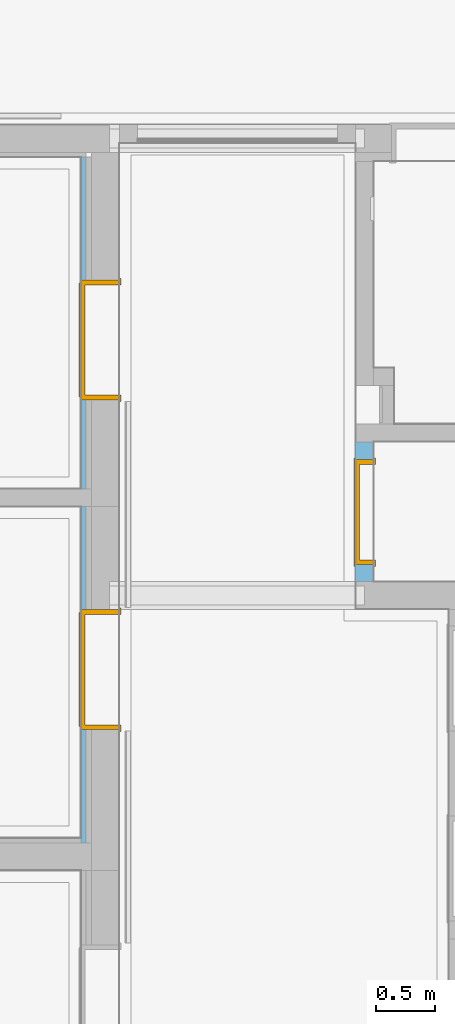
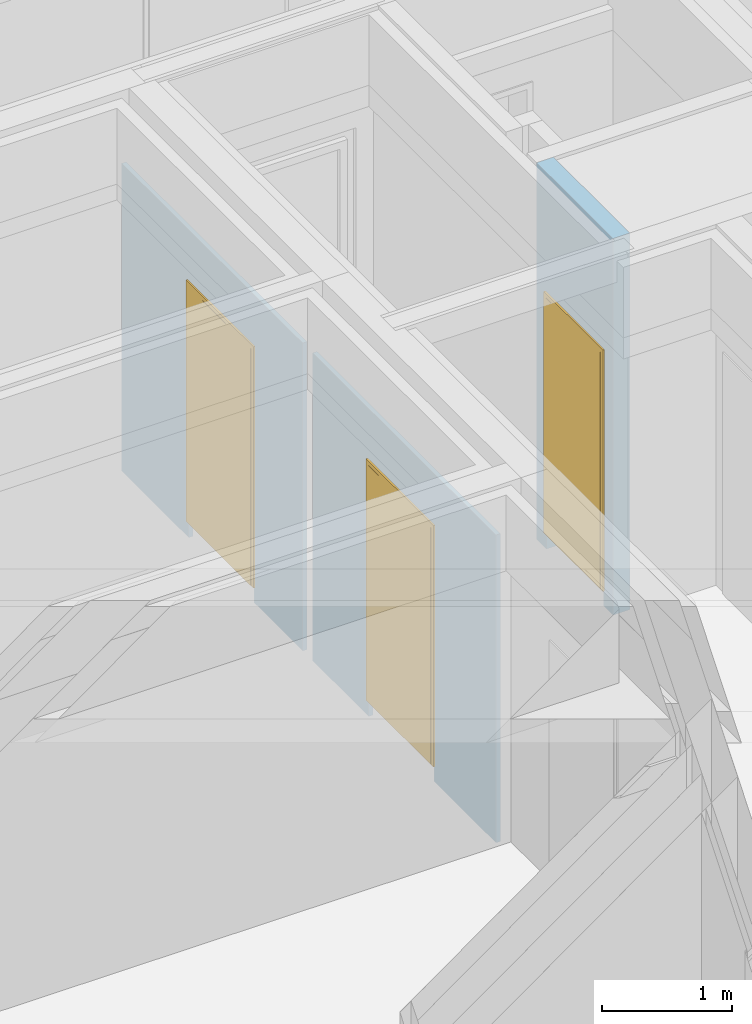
# One storey, part 137 of 222: 3 doors, 3 openings, plus 3 elements that do not belong to this part.
"""IFC4 building model written with IfcOpenShell, lengths in metres."""

from ifc_helpers import new_model, entity, si_unit, converted_unit, derived_unit, frame, frame_2d, origin, origin_with_axes, place, context, subcontext, project, spatial, polyline, rectangle, outline, extrude, faceted_brep, source, transform, mapped, material, type_object, element, fill, save


model = new_model("IFC4")

# Units and contexts
model_context = context("Model", 3, precision=1e-05, world=origin())
body_context = subcontext(model_context, "Body", "Model", "MODEL_VIEW")
ifc_project = project(units=[si_unit("LENGTHUNIT", "METRE"), si_unit("AREAUNIT", "SQUARE_METRE"), si_unit("VOLUMEUNIT", "CUBIC_METRE"), si_unit("MASSUNIT", "GRAM", prefix="KILO"), converted_unit("PLANEANGLEUNIT", "DEGREE", entity("IfcPlaneAngleMeasure", 0.0174532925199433), si_unit("PLANEANGLEUNIT", "RADIAN"), dimensions=[0, 0, 0, 0, 0, 0, 0]), derived_unit("THERMALTRANSMITTANCEUNIT", [(si_unit("POWERUNIT", "WATT"), 1), (si_unit("THERMODYNAMICTEMPERATUREUNIT", "KELVIN"), -1), (si_unit("LENGTHUNIT", "METRE"), -2)]), derived_unit("VOLUMETRICFLOWRATEUNIT", [(si_unit("LENGTHUNIT", "METRE"), 3), (converted_unit("TIMEUNIT", "hour", entity("IfcTimeMeasure", 3600.0), si_unit("TIMEUNIT", "SECOND"), dimensions=[0, 0, 1, 0, 0, 0, 0]), -1), (si_unit("LENGTHUNIT", "METRE"), -1)])], contexts=[model_context])

# Site, building, storey
site_placement = place(None, origin())
site = spatial("IfcSite", under=ifc_project, at=site_placement, Name="Psychiatrie Neubau Wunstorf", CompositionType="ELEMENT")
building_placement = place(site_placement, origin())
building = spatial("IfcBuilding", under=site, at=building_placement, Name="Neubau H2 Stationsgebäude", CompositionType="ELEMENT")
storey_placement = place(building_placement, frame((0.0, 0.0, 3.6)))
storey = spatial("IfcBuildingStorey", under=building, at=storey_placement, Name="H2 Ebene +1", CompositionType="ELEMENT", Elevation=3.6)

# Wall, opening, door
ifc_material_1 = material(Name="WI-LB")
wall_1_placement = place(storey_placement, frame((98.225, 18.9860040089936, 0.0), z_axis=(0.0, 0.0, 1.0), x_axis=(0.0, 1.0, 0.0)))
wall_1 = element("IfcWall", 1, at=wall_1_placement, inside=storey, material=ifc_material_1, context=body_context, shape_type="SweptSolid", body=[
    extrude(rectangle(XDim=1.17898976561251, YDim=0.15, at=frame_2d((0.589494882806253, 0.075), x_axis=(1.0, 0.0))), origin_with_axes(), (0.0, 0.0, 1.0), 3.55),
])
opening_1_placement = place(wall_1_placement, frame((1.02898976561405, 0.15, 0.0), z_axis=(0.0, -1.0, 0.0), x_axis=(0.0, 0.0, 1.0)))
opening_1 = element("IfcOpeningElement", 2, at=opening_1_placement, cuts=wall_1, Name="Türöffnung", ObjectType="Opening", context=body_context, shape_type="SweptSolid", body=[
    extrude(outline(polyline([(2.41, 0.885000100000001), (2.41, 0.0), (0.0, 0.0), (0.0, 0.885000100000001), (2.41, 0.885000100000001)])), origin_with_axes(), (0.0, 0.0, 1.0), 0.15),
])
ifc_material_2 = material(Name="TI-1F-UZ-ZK")
door_type_1 = type_object("IfcDoorType", Name="SMT", OperationType="SINGLE_SWING_RIGHT", ParameterTakesPrecedence=False, PredefinedType="DOOR")
shared_shape_1 = source(origin_with_axes(), body_context, "Body", "Brep", [
    faceted_brep([(0.95000009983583, 0.0250000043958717, 0.0), (0.95000009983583, 0.124999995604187, 0.0), (0.910000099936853, 0.124999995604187, 0.0), (0.910000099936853, 0.0250000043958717, 0.0), (0.95000009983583, 0.124999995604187, 3.55), (0.95000009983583, 0.0250000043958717, 3.55), (0.910000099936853, 0.0250000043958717, 3.55), (0.910000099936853, 0.124999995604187, 3.55)], [[[0, 1, 2, 3]], [[4, 5, 6, 7]], [[1, 0, 5, 4]], [[2, 1, 4, 7]], [[3, 2, 7, 6]], [[0, 3, 6, 5]]], orient=[[False], [False], [False], [False], [False], [False]]),
    faceted_brep([(-0.0249999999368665, 0.0250000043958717, 0.0), (-0.0249999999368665, 0.124999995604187, 0.0), (-0.0649999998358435, 0.124999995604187, 0.0), (-0.0649999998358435, 0.0250000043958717, 0.0), (-0.0249999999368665, 0.124999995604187, 3.55), (-0.0249999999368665, 0.0250000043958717, 3.55), (-0.0649999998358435, 0.0250000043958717, 3.55), (-0.0649999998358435, 0.124999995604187, 3.55)], [[[0, 1, 2, 3]], [[4, 5, 6, 7]], [[1, 0, 5, 4]], [[2, 1, 4, 7]], [[3, 2, 7, 6]], [[0, 3, 6, 5]]], orient=[[False], [False], [False], [False], [False], [False]]),
    faceted_brep([(0.910000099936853, 0.0250000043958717, 2.435), (0.910000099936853, 0.124999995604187, 2.435), (-0.0249999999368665, 0.124999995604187, 2.435), (-0.0249999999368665, 0.0250000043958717, 2.435), (0.910000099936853, 0.124999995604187, 2.475), (0.910000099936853, 0.0250000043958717, 2.475), (-0.0249999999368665, 0.0250000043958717, 2.475), (-0.0249999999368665, 0.124999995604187, 2.475)], [[[0, 1, 2, 3]], [[4, 5, 6, 7]], [[1, 0, 5, 4]], [[2, 1, 4, 7]], [[3, 2, 7, 6]], [[0, 3, 6, 5]]], orient=[[False], [False], [False], [False], [False], [False]]),
])
shared_shape_2 = source(origin_with_axes(), body_context, "Body", "Brep", [
    faceted_brep([(0.0, -0.0149999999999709, 2.41), (0.0399999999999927, -0.0149999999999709, 2.41), (0.0399999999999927, -0.0149999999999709, 0.15), (0.0, -0.0149999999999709, 0.15), (0.0, 0.165000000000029, 0.15), (0.0399999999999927, 0.165000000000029, 0.15), (0.0399999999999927, 0.165000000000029, 2.41), (0.0, 0.165000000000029, 2.41)], [[[0, 1, 2, 3]], [[4, 5, 6, 7]], [[3, 4, 7, 0]], [[2, 5, 4, 3]], [[1, 6, 5, 2]], [[0, 7, 6, 1]]], orient=[[False], [False], [False], [False], [False], [False]]),
    faceted_brep([(0.0, -0.0149999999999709, 2.425), (0.0, -0.0149999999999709, 0.15), (-0.0150000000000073, -0.0149999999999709, 0.15), (-0.0150000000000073, -0.0149999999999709, 2.425), (0.0, 0.0, 0.15), (0.0, 0.0, 2.425), (-0.0150000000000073, 0.0, 2.425), (-0.0150000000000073, 0.0, 0.15)], [[[0, 1, 2, 3]], [[4, 5, 6, 7]], [[1, 0, 5, 4]], [[2, 1, 4, 7]], [[3, 2, 7, 6]], [[0, 3, 6, 5]]], orient=[[False], [False], [False], [False], [False], [False]]),
    faceted_brep([(0.0, 0.150000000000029, 2.425), (0.0, 0.150000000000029, 0.15), (-0.0150000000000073, 0.150000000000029, 0.15), (-0.0150000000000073, 0.150000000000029, 2.425), (0.0, 0.165000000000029, 0.15), (0.0, 0.165000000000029, 2.425), (-0.0150000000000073, 0.165000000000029, 2.425), (-0.0150000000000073, 0.165000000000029, 0.15)], [[[0, 1, 2, 3]], [[4, 5, 6, 7]], [[1, 0, 5, 4]], [[2, 1, 4, 7]], [[3, 2, 7, 6]], [[0, 3, 6, 5]]], orient=[[False], [False], [False], [False], [False], [False]]),
    faceted_brep([(0.845000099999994, -0.0149999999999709, 2.41), (0.885000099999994, -0.0149999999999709, 2.41), (0.885000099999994, -0.0149999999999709, 0.15), (0.845000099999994, -0.0149999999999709, 0.15), (0.845000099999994, 0.165000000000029, 0.15), (0.885000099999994, 0.165000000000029, 0.15), (0.885000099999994, 0.165000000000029, 2.41), (0.845000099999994, 0.165000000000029, 2.41)], [[[0, 1, 2, 3]], [[4, 5, 6, 7]], [[3, 4, 7, 0]], [[2, 5, 4, 3]], [[1, 6, 5, 2]], [[0, 7, 6, 1]]], orient=[[False], [False], [False], [False], [False], [False]]),
    faceted_brep([(0.885000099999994, -0.0149999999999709, 2.425), (0.900000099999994, -0.0149999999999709, 2.425), (0.900000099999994, -0.0149999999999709, 0.15), (0.885000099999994, -0.0149999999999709, 0.15), (0.885000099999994, 0.0, 0.15), (0.900000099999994, 0.0, 0.15), (0.900000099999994, 0.0, 2.425), (0.885000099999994, 0.0, 2.425)], [[[0, 1, 2, 3]], [[4, 5, 6, 7]], [[3, 4, 7, 0]], [[2, 5, 4, 3]], [[1, 6, 5, 2]], [[0, 7, 6, 1]]], orient=[[False], [False], [False], [False], [False], [False]]),
    faceted_brep([(0.885000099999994, 0.150000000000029, 2.425), (0.900000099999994, 0.150000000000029, 2.425), (0.900000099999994, 0.150000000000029, 0.15), (0.885000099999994, 0.150000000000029, 0.15), (0.885000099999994, 0.165000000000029, 0.15), (0.900000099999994, 0.165000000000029, 0.15), (0.900000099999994, 0.165000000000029, 2.425), (0.885000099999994, 0.165000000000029, 2.425)], [[[0, 1, 2, 3]], [[4, 5, 6, 7]], [[3, 4, 7, 0]], [[2, 5, 4, 3]], [[1, 6, 5, 2]], [[0, 7, 6, 1]]], orient=[[False], [False], [False], [False], [False], [False]]),
    faceted_brep([(0.0399999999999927, -0.0149999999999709, 2.41), (0.845000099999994, -0.0149999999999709, 2.41), (0.845000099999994, -0.0149999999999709, 2.37), (0.0399999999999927, -0.0149999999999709, 2.37), (0.0399999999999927, 0.165000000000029, 2.37), (0.845000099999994, 0.165000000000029, 2.37), (0.845000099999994, 0.165000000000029, 2.41), (0.0399999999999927, 0.165000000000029, 2.41)], [[[0, 1, 2, 3]], [[4, 5, 6, 7]], [[3, 4, 7, 0]], [[2, 5, 4, 3]], [[1, 6, 5, 2]], [[0, 7, 6, 1]]], orient=[[False], [False], [False], [False], [False], [False]]),
    faceted_brep([(0.0, -0.0149999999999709, 2.425), (0.885000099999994, -0.0149999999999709, 2.425), (0.885000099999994, -0.0149999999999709, 2.41), (0.0, -0.0149999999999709, 2.41), (0.0, 0.0, 2.41), (0.885000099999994, 0.0, 2.41), (0.885000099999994, 0.0, 2.425), (0.0, 0.0, 2.425)], [[[0, 1, 2, 3]], [[4, 5, 6, 7]], [[3, 4, 7, 0]], [[2, 5, 4, 3]], [[1, 6, 5, 2]], [[0, 7, 6, 1]]], orient=[[False], [False], [False], [False], [False], [False]]),
    faceted_brep([(0.0, 0.150000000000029, 2.425), (0.885000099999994, 0.150000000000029, 2.425), (0.885000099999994, 0.150000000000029, 2.41), (0.0, 0.150000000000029, 2.41), (0.0, 0.165000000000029, 2.41), (0.885000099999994, 0.165000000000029, 2.41), (0.885000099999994, 0.165000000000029, 2.425), (0.0, 0.165000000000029, 2.425)], [[[0, 1, 2, 3]], [[4, 5, 6, 7]], [[3, 4, 7, 0]], [[2, 5, 4, 3]], [[1, 6, 5, 2]], [[0, 7, 6, 1]]], orient=[[False], [False], [False], [False], [False], [False]]),
    faceted_brep([(0.0249999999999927, 0.116000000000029, 2.385), (0.860000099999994, 0.116000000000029, 2.385), (0.860000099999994, 0.116000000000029, 0.15), (0.0249999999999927, 0.116000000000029, 0.15), (0.0249999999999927, 0.166000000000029, 0.15), (0.860000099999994, 0.166000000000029, 0.15), (0.860000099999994, 0.166000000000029, 2.385), (0.0249999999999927, 0.166000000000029, 2.385)], [[[0, 1, 2, 3]], [[4, 5, 6, 7]], [[3, 4, 7, 0]], [[2, 5, 4, 3]], [[1, 6, 5, 2]], [[0, 7, 6, 1]]], orient=[[False], [False], [False], [False], [False], [False]]),
])
door_1_placement = place(opening_1_placement, frame((0.0, 0.885000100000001, 0.15), z_axis=(1.0, 0.0, 0.0), x_axis=(0.0, -1.0, 0.0)))
door_1 = element("IfcDoor", 3, at=door_1_placement, inside=storey, type_object=door_type_1, material=ifc_material_2, Name="SMT", OverallHeight=2.41, OverallWidth=0.885, context=body_context, shape_type="MappedRepresentation", body=[
    mapped(shared_shape_1, transform((0.0, 0.0, 0.0), x_axis=(1.0, 0.0, 0.0), y_axis=(0.0, 1.0, 0.0), z_axis=(0.0, 0.0, 1.0), scale=1.0)),
    mapped(shared_shape_2, transform((0.0, 0.0, 0.0), x_axis=(1.0, 0.0, 0.0), y_axis=(0.0, 1.0, 0.0), z_axis=(0.0, 0.0, 1.0), scale=1.0)),
])
fill(opening_1, door_1)

ifc_material_3 = material(Name="WI-LB")
wall_2_placement = place(storey_placement, frame((95.7609999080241, 19.618, 0.0), z_axis=(0.0, 0.0, 1.0), x_axis=(0.0, -1.0, 0.0)))
wall_2 = element("IfcWall", 4, at=wall_2_placement, inside=storey, material=ifc_material_3, context=body_context, shape_type="SweptSolid", body=[
    extrude(rectangle(XDim=2.8325, YDim=0.0395, at=frame_2d((1.41625, 0.01975), x_axis=(1.0, 0.0))), origin_with_axes(), (0.0, 0.0, 1.0), 2.9),
])
opening_2_placement = place(wall_2_placement, frame((1.87810239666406, 0.0395, 0.0), z_axis=(0.0, -1.0, 0.0), x_axis=(0.0, 0.0, 1.0)))
opening_2 = element("IfcOpeningElement", 5, at=opening_2_placement, cuts=wall_2, Name="Türöffnung", ObjectType="Opening", context=body_context, shape_type="SweptSolid", body=[
    extrude(outline(polyline([(2.41, 1.01), (2.41, 0.0), (0.0, 0.0), (0.0, 1.01), (2.41, 1.01)])), origin_with_axes(), (0.0, 0.0, 1.0), 0.0395),
])
ifc_material_4 = material(Name="TI-1F-UZ-ZK")
door_type_2 = type_object("IfcDoorType", Name="SMT", OperationType="SINGLE_SWING_RIGHT", ParameterTakesPrecedence=False, PredefinedType="DOOR")
shared_shape_3 = source(origin_with_axes(), body_context, "Body", "Brep", [
    faceted_brep([(1.00999999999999, -0.0149999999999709, 2.41), (1.00999999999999, -0.0149999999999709, 0.15), (0.969999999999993, -0.0149999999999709, 0.15), (0.969999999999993, -0.0149999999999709, 2.41), (1.00999999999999, 0.336500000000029, 0.15), (1.00999999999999, 0.336500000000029, 2.41), (0.969999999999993, 0.336500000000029, 2.41), (0.969999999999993, 0.336500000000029, 0.15)], [[[0, 1, 2, 3]], [[4, 5, 6, 7]], [[1, 0, 5, 4]], [[2, 1, 4, 7]], [[3, 2, 7, 6]], [[0, 3, 6, 5]]], orient=[[False], [False], [False], [False], [False], [False]]),
    faceted_brep([(1.00999999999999, -0.0149999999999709, 2.425), (1.02499999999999, -0.0149999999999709, 2.425), (1.02499999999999, -0.0149999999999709, 0.15), (1.00999999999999, -0.0149999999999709, 0.15), (1.00999999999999, 0.0, 0.15), (1.02499999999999, 0.0, 0.15), (1.02499999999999, 0.0, 2.425), (1.00999999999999, 0.0, 2.425)], [[[0, 1, 2, 3]], [[4, 5, 6, 7]], [[3, 4, 7, 0]], [[2, 5, 4, 3]], [[1, 6, 5, 2]], [[0, 7, 6, 1]]], orient=[[False], [False], [False], [False], [False], [False]]),
    faceted_brep([(1.00999999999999, 0.321500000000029, 2.425), (1.02499999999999, 0.321500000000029, 2.425), (1.02499999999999, 0.321500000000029, 0.15), (1.00999999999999, 0.321500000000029, 0.15), (1.00999999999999, 0.336500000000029, 0.15), (1.02499999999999, 0.336500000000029, 0.15), (1.02499999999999, 0.336500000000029, 2.425), (1.00999999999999, 0.336500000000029, 2.425)], [[[0, 1, 2, 3]], [[4, 5, 6, 7]], [[3, 4, 7, 0]], [[2, 5, 4, 3]], [[1, 6, 5, 2]], [[0, 7, 6, 1]]], orient=[[False], [False], [False], [False], [False], [False]]),
    faceted_brep([(0.0399999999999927, -0.0149999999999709, 2.41), (0.0399999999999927, -0.0149999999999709, 0.15), (0.0, -0.0149999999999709, 0.15), (0.0, -0.0149999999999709, 2.41), (0.0399999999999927, 0.336500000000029, 0.15), (0.0399999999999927, 0.336500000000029, 2.41), (0.0, 0.336500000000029, 2.41), (0.0, 0.336500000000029, 0.15)], [[[0, 1, 2, 3]], [[4, 5, 6, 7]], [[1, 0, 5, 4]], [[2, 1, 4, 7]], [[3, 2, 7, 6]], [[0, 3, 6, 5]]], orient=[[False], [False], [False], [False], [False], [False]]),
    faceted_brep([(0.0, -0.0149999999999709, 2.425), (0.0, -0.0149999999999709, 0.15), (-0.0150000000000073, -0.0149999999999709, 0.15), (-0.0150000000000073, -0.0149999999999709, 2.425), (0.0, 0.0, 0.15), (0.0, 0.0, 2.425), (-0.0150000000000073, 0.0, 2.425), (-0.0150000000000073, 0.0, 0.15)], [[[0, 1, 2, 3]], [[4, 5, 6, 7]], [[1, 0, 5, 4]], [[2, 1, 4, 7]], [[3, 2, 7, 6]], [[0, 3, 6, 5]]], orient=[[False], [False], [False], [False], [False], [False]]),
    faceted_brep([(0.0, 0.321500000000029, 2.425), (0.0, 0.321500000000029, 0.15), (-0.0150000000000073, 0.321500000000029, 0.15), (-0.0150000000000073, 0.321500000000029, 2.425), (0.0, 0.336500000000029, 0.15), (0.0, 0.336500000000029, 2.425), (-0.0150000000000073, 0.336500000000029, 2.425), (-0.0150000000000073, 0.336500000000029, 0.15)], [[[0, 1, 2, 3]], [[4, 5, 6, 7]], [[1, 0, 5, 4]], [[2, 1, 4, 7]], [[3, 2, 7, 6]], [[0, 3, 6, 5]]], orient=[[False], [False], [False], [False], [False], [False]]),
    faceted_brep([(0.969999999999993, -0.0149999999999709, 2.41), (0.969999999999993, -0.0149999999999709, 2.37), (0.0399999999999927, -0.0149999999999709, 2.37), (0.0399999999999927, -0.0149999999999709, 2.41), (0.969999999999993, 0.336500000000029, 2.37), (0.969999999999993, 0.336500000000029, 2.41), (0.0399999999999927, 0.336500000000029, 2.41), (0.0399999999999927, 0.336500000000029, 2.37)], [[[0, 1, 2, 3]], [[4, 5, 6, 7]], [[1, 0, 5, 4]], [[2, 1, 4, 7]], [[3, 2, 7, 6]], [[0, 3, 6, 5]]], orient=[[False], [False], [False], [False], [False], [False]]),
    faceted_brep([(1.00999999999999, -0.0149999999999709, 2.425), (1.00999999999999, -0.0149999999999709, 2.41), (0.0, -0.0149999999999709, 2.41), (0.0, -0.0149999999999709, 2.425), (1.00999999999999, 0.0, 2.41), (1.00999999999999, 0.0, 2.425), (0.0, 0.0, 2.425), (0.0, 0.0, 2.41)], [[[0, 1, 2, 3]], [[4, 5, 6, 7]], [[1, 0, 5, 4]], [[2, 1, 4, 7]], [[3, 2, 7, 6]], [[0, 3, 6, 5]]], orient=[[False], [False], [False], [False], [False], [False]]),
    faceted_brep([(1.00999999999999, 0.321500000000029, 2.425), (1.00999999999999, 0.321500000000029, 2.41), (0.0, 0.321500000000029, 2.41), (0.0, 0.321500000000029, 2.425), (1.00999999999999, 0.336500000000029, 2.41), (1.00999999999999, 0.336500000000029, 2.425), (0.0, 0.336500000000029, 2.425), (0.0, 0.336500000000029, 2.41)], [[[0, 1, 2, 3]], [[4, 5, 6, 7]], [[1, 0, 5, 4]], [[2, 1, 4, 7]], [[3, 2, 7, 6]], [[0, 3, 6, 5]]], orient=[[False], [False], [False], [False], [False], [False]]),
    faceted_brep([(0.984999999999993, 0.287500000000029, 2.385), (0.984999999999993, 0.287500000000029, 0.15), (0.0249999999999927, 0.287500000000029, 0.15), (0.0249999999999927, 0.287500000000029, 2.385), (0.984999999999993, 0.337500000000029, 0.15), (0.984999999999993, 0.337500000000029, 2.385), (0.0249999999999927, 0.337500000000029, 2.385), (0.0249999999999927, 0.337500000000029, 0.15)], [[[0, 1, 2, 3]], [[4, 5, 6, 7]], [[1, 0, 5, 4]], [[2, 1, 4, 7]], [[3, 2, 7, 6]], [[0, 3, 6, 5]]], orient=[[False], [False], [False], [False], [False], [False]]),
])
door_2_placement = place(opening_2_placement, frame((0.0, 0.0, -0.282), z_axis=(1.0, 0.0, 0.0), x_axis=(0.0, 1.0, 0.0)))
door_2 = element("IfcDoor", 6, at=door_2_placement, inside=storey, type_object=door_type_2, material=ifc_material_4, Name="SMT", OverallHeight=2.41, OverallWidth=1.01, context=body_context, shape_type="MappedRepresentation", body=[
    mapped(shared_shape_3, transform((0.0, 0.0, 0.0), x_axis=(1.0, 0.0, 0.0), y_axis=(0.0, 1.0, 0.0), z_axis=(0.0, 0.0, 1.0), scale=1.0)),
])
fill(opening_2, door_2)

ifc_material_5 = material(Name="WI-LB")
wall_3_placement = place(storey_placement, frame((95.7609999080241, 22.564, 0.0), z_axis=(0.0, 0.0, 1.0), x_axis=(0.0, -1.0, 0.0)))
wall_3 = element("IfcWall", 7, at=wall_3_placement, inside=storey, material=ifc_material_5, context=body_context, shape_type="SweptSolid", body=[
    extrude(rectangle(XDim=2.796, YDim=0.0395, at=frame_2d((1.398, 0.01975), x_axis=(1.0, 0.0))), origin_with_axes(), (0.0, 0.0, 1.0), 2.9),
])
opening_3_placement = place(wall_3_placement, frame((2.046, 0.0395, 0.0), z_axis=(0.0, -1.0, 0.0), x_axis=(0.0, 0.0, 1.0)))
opening_3 = element("IfcOpeningElement", 8, at=opening_3_placement, cuts=wall_3, Name="Türöffnung", ObjectType="Opening", context=body_context, shape_type="SweptSolid", body=[
    extrude(outline(polyline([(2.41, 1.01), (2.41, 0.0), (0.0, 0.0), (0.0, 1.01), (2.41, 1.01)])), origin_with_axes(), (0.0, 0.0, 1.0), 0.0395),
])
ifc_material_6 = material(Name="TI-1F-UZ-ZK")
door_type_3 = type_object("IfcDoorType", Name="SMT", OperationType="SINGLE_SWING_RIGHT", ParameterTakesPrecedence=False, PredefinedType="DOOR")
shared_shape_4 = source(origin_with_axes(), body_context, "Body", "Brep", [
    faceted_brep([(0.0, -0.0149999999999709, 2.41), (0.0399999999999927, -0.0149999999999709, 2.41), (0.0399999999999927, -0.0149999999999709, 0.15), (0.0, -0.0149999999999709, 0.15), (0.0, 0.336500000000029, 0.15), (0.0399999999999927, 0.336500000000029, 0.15), (0.0399999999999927, 0.336500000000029, 2.41), (0.0, 0.336500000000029, 2.41)], [[[0, 1, 2, 3]], [[4, 5, 6, 7]], [[3, 4, 7, 0]], [[2, 5, 4, 3]], [[1, 6, 5, 2]], [[0, 7, 6, 1]]], orient=[[False], [False], [False], [False], [False], [False]]),
    faceted_brep([(0.0, -0.0149999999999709, 2.425), (0.0, -0.0149999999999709, 0.15), (-0.0150000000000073, -0.0149999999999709, 0.15), (-0.0150000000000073, -0.0149999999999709, 2.425), (0.0, 0.0, 0.15), (0.0, 0.0, 2.425), (-0.0150000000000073, 0.0, 2.425), (-0.0150000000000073, 0.0, 0.15)], [[[0, 1, 2, 3]], [[4, 5, 6, 7]], [[1, 0, 5, 4]], [[2, 1, 4, 7]], [[3, 2, 7, 6]], [[0, 3, 6, 5]]], orient=[[False], [False], [False], [False], [False], [False]]),
    faceted_brep([(0.0, 0.321500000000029, 2.425), (0.0, 0.321500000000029, 0.15), (-0.0150000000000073, 0.321500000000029, 0.15), (-0.0150000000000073, 0.321500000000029, 2.425), (0.0, 0.336500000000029, 0.15), (0.0, 0.336500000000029, 2.425), (-0.0150000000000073, 0.336500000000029, 2.425), (-0.0150000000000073, 0.336500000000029, 0.15)], [[[0, 1, 2, 3]], [[4, 5, 6, 7]], [[1, 0, 5, 4]], [[2, 1, 4, 7]], [[3, 2, 7, 6]], [[0, 3, 6, 5]]], orient=[[False], [False], [False], [False], [False], [False]]),
    faceted_brep([(0.969999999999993, -0.0149999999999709, 2.41), (1.00999999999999, -0.0149999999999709, 2.41), (1.00999999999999, -0.0149999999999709, 0.15), (0.969999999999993, -0.0149999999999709, 0.15), (0.969999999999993, 0.336500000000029, 0.15), (1.00999999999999, 0.336500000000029, 0.15), (1.00999999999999, 0.336500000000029, 2.41), (0.969999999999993, 0.336500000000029, 2.41)], [[[0, 1, 2, 3]], [[4, 5, 6, 7]], [[3, 4, 7, 0]], [[2, 5, 4, 3]], [[1, 6, 5, 2]], [[0, 7, 6, 1]]], orient=[[False], [False], [False], [False], [False], [False]]),
    faceted_brep([(1.00999999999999, -0.0149999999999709, 2.425), (1.02499999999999, -0.0149999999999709, 2.425), (1.02499999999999, -0.0149999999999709, 0.15), (1.00999999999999, -0.0149999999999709, 0.15), (1.00999999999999, 0.0, 0.15), (1.02499999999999, 0.0, 0.15), (1.02499999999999, 0.0, 2.425), (1.00999999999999, 0.0, 2.425)], [[[0, 1, 2, 3]], [[4, 5, 6, 7]], [[3, 4, 7, 0]], [[2, 5, 4, 3]], [[1, 6, 5, 2]], [[0, 7, 6, 1]]], orient=[[False], [False], [False], [False], [False], [False]]),
    faceted_brep([(1.00999999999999, 0.321500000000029, 2.425), (1.02499999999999, 0.321500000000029, 2.425), (1.02499999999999, 0.321500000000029, 0.15), (1.00999999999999, 0.321500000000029, 0.15), (1.00999999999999, 0.336500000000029, 0.15), (1.02499999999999, 0.336500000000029, 0.15), (1.02499999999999, 0.336500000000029, 2.425), (1.00999999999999, 0.336500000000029, 2.425)], [[[0, 1, 2, 3]], [[4, 5, 6, 7]], [[3, 4, 7, 0]], [[2, 5, 4, 3]], [[1, 6, 5, 2]], [[0, 7, 6, 1]]], orient=[[False], [False], [False], [False], [False], [False]]),
    faceted_brep([(0.0399999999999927, -0.0149999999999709, 2.41), (0.969999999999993, -0.0149999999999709, 2.41), (0.969999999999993, -0.0149999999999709, 2.37), (0.0399999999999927, -0.0149999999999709, 2.37), (0.0399999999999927, 0.336500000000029, 2.37), (0.969999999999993, 0.336500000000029, 2.37), (0.969999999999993, 0.336500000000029, 2.41), (0.0399999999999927, 0.336500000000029, 2.41)], [[[0, 1, 2, 3]], [[4, 5, 6, 7]], [[3, 4, 7, 0]], [[2, 5, 4, 3]], [[1, 6, 5, 2]], [[0, 7, 6, 1]]], orient=[[False], [False], [False], [False], [False], [False]]),
    faceted_brep([(0.0, -0.0149999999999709, 2.425), (1.00999999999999, -0.0149999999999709, 2.425), (1.00999999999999, -0.0149999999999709, 2.41), (0.0, -0.0149999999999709, 2.41), (0.0, 0.0, 2.41), (1.00999999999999, 0.0, 2.41), (1.00999999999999, 0.0, 2.425), (0.0, 0.0, 2.425)], [[[0, 1, 2, 3]], [[4, 5, 6, 7]], [[3, 4, 7, 0]], [[2, 5, 4, 3]], [[1, 6, 5, 2]], [[0, 7, 6, 1]]], orient=[[False], [False], [False], [False], [False], [False]]),
    faceted_brep([(0.0, 0.321500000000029, 2.425), (1.00999999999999, 0.321500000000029, 2.425), (1.00999999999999, 0.321500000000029, 2.41), (0.0, 0.321500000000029, 2.41), (0.0, 0.336500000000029, 2.41), (1.00999999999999, 0.336500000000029, 2.41), (1.00999999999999, 0.336500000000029, 2.425), (0.0, 0.336500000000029, 2.425)], [[[0, 1, 2, 3]], [[4, 5, 6, 7]], [[3, 4, 7, 0]], [[2, 5, 4, 3]], [[1, 6, 5, 2]], [[0, 7, 6, 1]]], orient=[[False], [False], [False], [False], [False], [False]]),
    faceted_brep([(0.0249999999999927, 0.287500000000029, 2.385), (0.984999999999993, 0.287500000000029, 2.385), (0.984999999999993, 0.287500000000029, 0.15), (0.0249999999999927, 0.287500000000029, 0.15), (0.0249999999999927, 0.337500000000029, 0.15), (0.984999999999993, 0.337500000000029, 0.15), (0.984999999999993, 0.337500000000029, 2.385), (0.0249999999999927, 0.337500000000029, 2.385)], [[[0, 1, 2, 3]], [[4, 5, 6, 7]], [[3, 4, 7, 0]], [[2, 5, 4, 3]], [[1, 6, 5, 2]], [[0, 7, 6, 1]]], orient=[[False], [False], [False], [False], [False], [False]]),
])
door_3_placement = place(opening_3_placement, frame((0.0, 0.0, -0.282), z_axis=(1.0, 0.0, 0.0), x_axis=(0.0, 1.0, 0.0)))
door_3 = element("IfcDoor", 9, at=door_3_placement, inside=storey, type_object=door_type_3, material=ifc_material_6, Name="SMT", OverallHeight=2.41, OverallWidth=1.01, context=body_context, shape_type="MappedRepresentation", body=[
    mapped(shared_shape_4, transform((0.0, 0.0, 0.0), x_axis=(1.0, 0.0, 0.0), y_axis=(0.0, 1.0, 0.0), z_axis=(0.0, 0.0, 1.0), scale=1.0)),
])
fill(opening_3, door_3)

save(model, "model.ifc")
